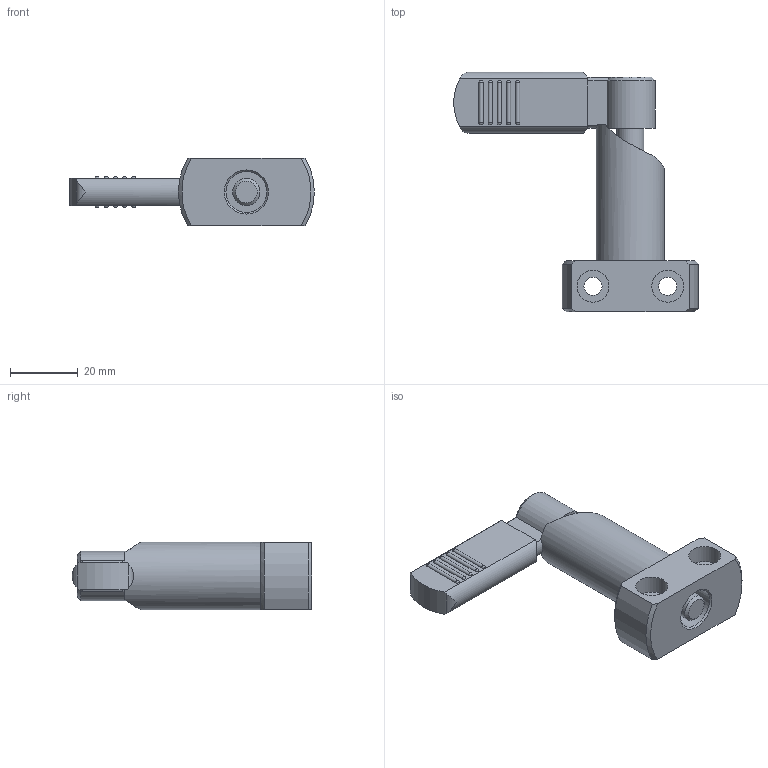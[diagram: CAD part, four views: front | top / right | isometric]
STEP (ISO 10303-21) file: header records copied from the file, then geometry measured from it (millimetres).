
FILE_DESCRIPTION( ( 'STEP AP203' ), '1' );
FILE_NAME( 'C:/Temp/Ganter_Step_05_03_2020/data/3_1/gn612_2/Indexing plunger GN 612.2-8-20-B (activated).stp', '2020-03-12T08:35:11', ( 'License CC BY-ND 4.0' ), ( 'CADENAS' ), ' ', 'PARTsolutions', ' ' );
FILE_SCHEMA( ( 'CONFIG_CONTROL_DESIGN' ) );
Length unit declared in the file: millimetre
Products named in the file (3): Indexing plunger GN 612.2-8-20-B (activated); _Rastriegel GN 612.2-8-20-B (betaetigt)-a; _Rastriegel GN 612.2-8-20-B (betaetigt)-b
Assembly tree (2 placements, depth 2):
  Indexing plunger GN 612.2-8-20-B (activated)
    _Rastriegel GN 612.2-8-20-B (betaetigt)-a
    _Rastriegel GN 612.2-8-20-B (betaetigt)-b
Bounding box: 72 x 70.5 x 20 mm (x, y, z)
Volume: 26684.5 mm3; surface area: 12796.5 mm2
Topology: 2 solids, 2 shells, 103 faces, 265 edges, 166 vertices
Faces by surface type: cylinder 43, plane 30, sphere 20, cone 9, torus 1
Full cylindrical faces by diameter (mm): 5.3 x2, 8 x3, 8.9 x1, 9.1 x1, 9.4 x4, 12 x2, 14.5 x1, 16 x1, 20 x1
Entity records: 3103 total; most frequent: CARTESIAN_POINT 790, DIRECTION 475, ORIENTED_EDGE 406, AXIS2_PLACEMENT_3D 205, EDGE_CURVE 203, EDGE_LOOP 149, VERTEX_POINT 144, FACE_OUTER_BOUND 119
